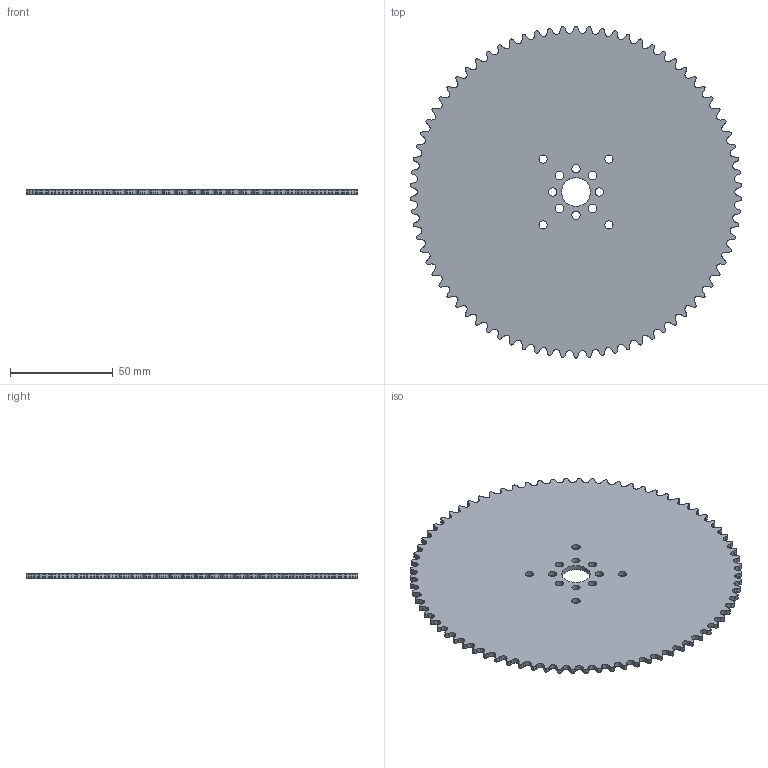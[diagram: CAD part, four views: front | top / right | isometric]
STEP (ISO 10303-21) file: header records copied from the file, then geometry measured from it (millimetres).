
FILE_DESCRIPTION (( 'STEP AP203' ), '1' );
FILE_NAME ('3314-0014-0078.STEP', '2023-04-24T13:12:27', ( '' ), ( '' ), 'SwSTEP 2.0', 'SolidWorks 2016', '' );
FILE_SCHEMA (( 'CONFIG_CONTROL_DESIGN' ));
Length unit declared in the file: millimetre
Products named in the file (1): 3314-0014-0078
Bounding box: 161.28 x 161.38 x 2.36 mm (x, y, z)
Volume: 45256.5 mm3; surface area: 40676.4 mm2
Topology: 1 solids, 1 shells, 695 faces, 2079 edges, 1386 vertices
Faces by surface type: cylinder 537, plane 158
Entity records: 24096 total; most frequent: DIRECTION 4545, CARTESIAN_POINT 4161, ORIENTED_EDGE 4158, EDGE_CURVE 2079, AXIS2_PLACEMENT_3D 1770, VERTEX_POINT 1386, CIRCLE 1074, VECTOR 1005
